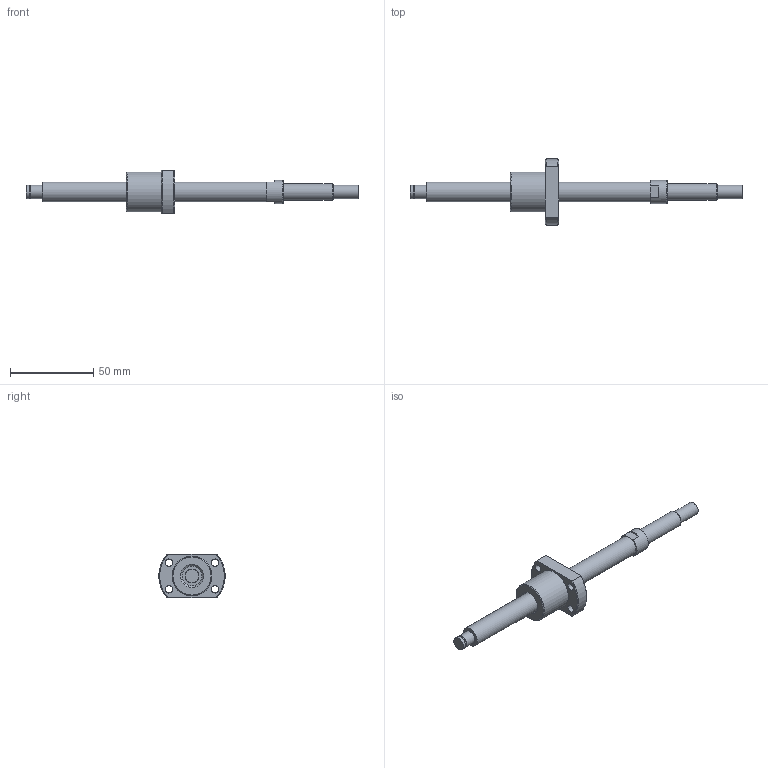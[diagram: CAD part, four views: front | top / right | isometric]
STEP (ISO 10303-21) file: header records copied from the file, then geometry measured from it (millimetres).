
FILE_DESCRIPTION(/* description */ ('STEP AP214'),/* implementation_level */ '2;1');
FILE_NAME(/* name */ 'NSGF1204Z-130R200C3-0-T-S-T-B-(50.5-S)',/* time_stamp */ '2026-08-24T20:18:22+02:00',/* author */ ('License CC BY-ND 4.0'),/* organization */ ('CADENAS'),/* preprocessor_version */ 'ST-DEVELOPER v20',/* originating_system */ 'PARTsolutions',/* authorisation */ ' ');
FILE_SCHEMA (('AUTOMOTIVE_DESIGN {1 0 10303 214 3 1 1}'));
Length unit declared in the file: millimetre
Products named in the file (3): NSGF1204Z-130R200C3-0-T-S-T-B-(50.5-S); NSG1204Z-130R20029_(T-S_T-B_2)-2; NSGF1204Z-1
Assembly tree (2 placements, depth 2):
  NSGF1204Z-130R200C3-0-T-S-T-B-(50.5-S)
    NSG1204Z-130R20029_(T-S_T-B_2)-2
    NSGF1204Z-1
Bounding box: 200 x 39.88 x 26 mm (x, y, z)
Volume: 31850.6 mm3; surface area: 13172.6 mm2
Topology: 2 solids, 2 shells, 45 faces, 96 edges, 62 vertices
Faces by surface type: plane 19, cylinder 16, cone 8, torus 2
Full cylindrical faces by diameter (mm): 4.5 x4, 7.6 x1, 8 x3, 10 x1, 12 x2, 14 x1, 21 x1, 24 x1
Entity records: 1195 total; most frequent: DIRECTION 206, CARTESIAN_POINT 202, ORIENTED_EDGE 144, AXIS2_PLACEMENT_3D 94, EDGE_LOOP 82, FACE_BOUND 82, EDGE_CURVE 72, VERTEX_POINT 58
